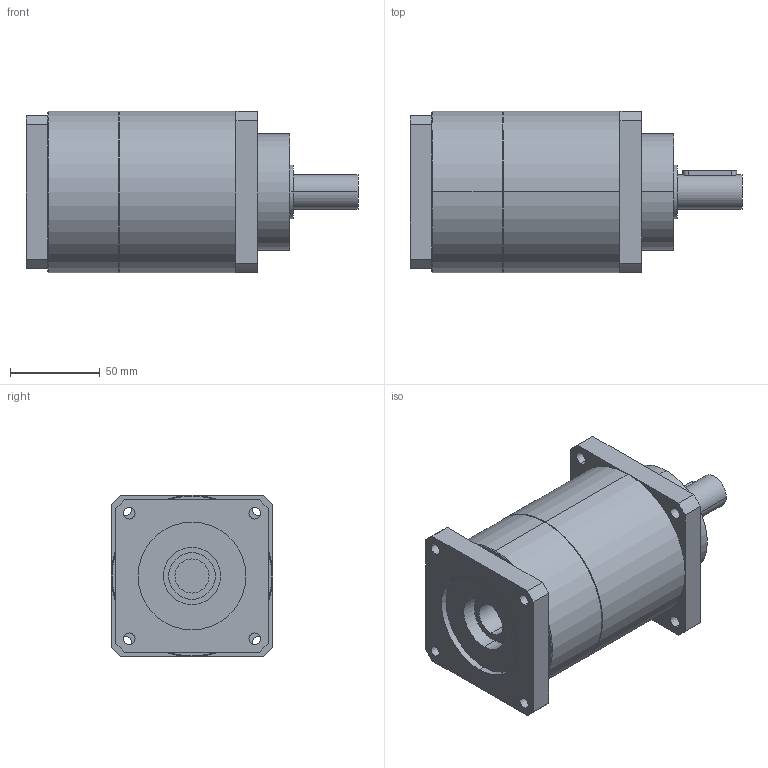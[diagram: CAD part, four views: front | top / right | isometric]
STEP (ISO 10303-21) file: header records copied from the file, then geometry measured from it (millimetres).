
FILE_DESCRIPTION(('CoCreate Modeling STEP Export'),'2;1');
FILE_NAME('GPT90_ig-9-12-16-20-25-28-35-40-50-70-100_19_B5T_19_P36.stp','2015-02-04T11:33:21',(''),(''),'CoCreate Modeling STEP processor for AP214 (Solid Model)','CoCreate Modeling 16.00C 25-Feb-2009 (C) Parametric Technology GmbH','');
FILE_SCHEMA(('AUTOMOTIVE_DESIGN { 1 0 10303 214 1 1 1 1 }'));
Length unit declared in the file: millimetre
Products named in the file (2): GPT90_ig-9-12-16-20-25-28-35-40-50-70-100_19_B5T_19_P36
Assembly tree (1 placements, depth 2):
  GPT90_ig-9-12-16-20-25-28-35-40-50-70-100_19_B5T_19_P36
    GPT90_ig-9-12-16-20-25-28-35-40-50-70-100_19_B5T_19_P36
Bounding box: 185 x 90 x 90 mm (x, y, z)
Volume: 893413.5 mm3; surface area: 68013 mm2
Topology: 1 solids, 1 shells, 84 faces, 225 edges, 152 vertices
Faces by surface type: cylinder 42, plane 38, cone 4
Entity records: 2707 total; most frequent: CARTESIAN_POINT 758, ORIENTED_EDGE 450, DIRECTION 322, EDGE_CURVE 225, VERTEX_POINT 152, AXIS2_PLACEMENT_3D 113, EDGE_LOOP 109, VECTOR 96
